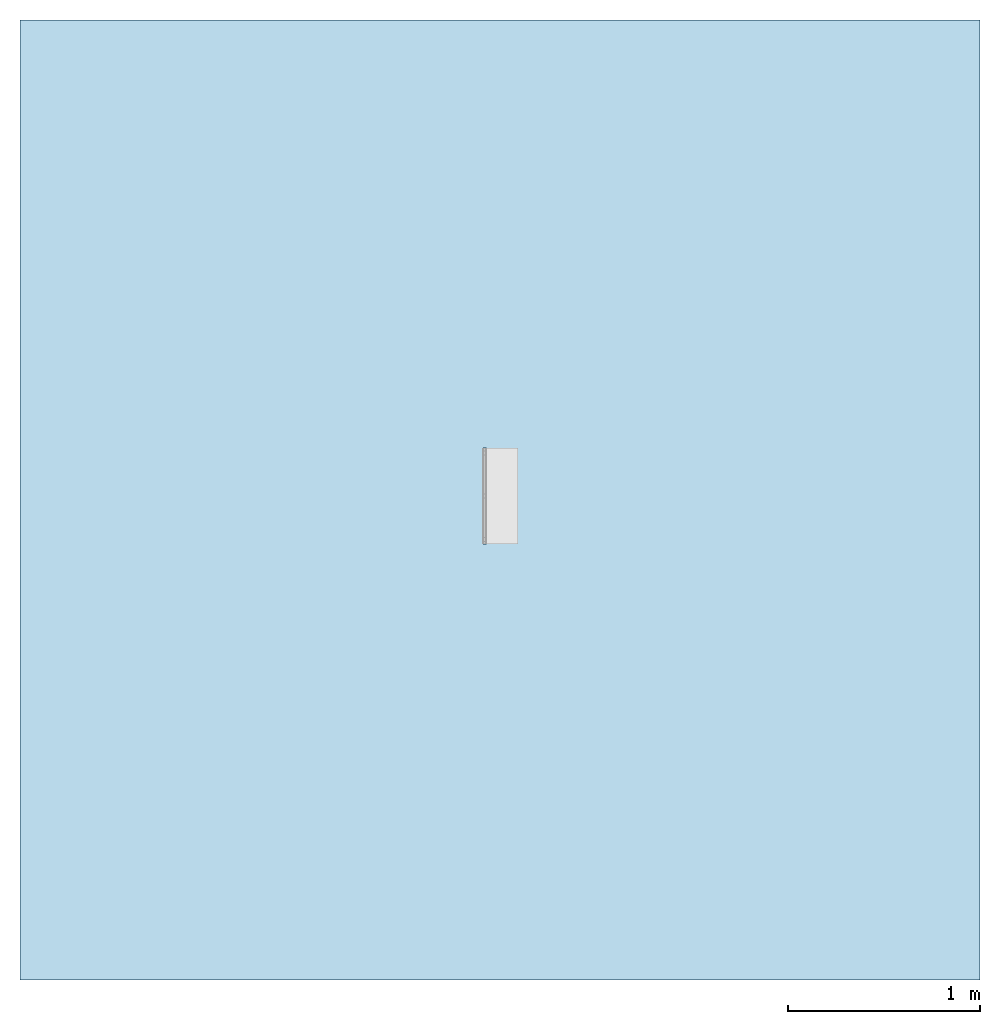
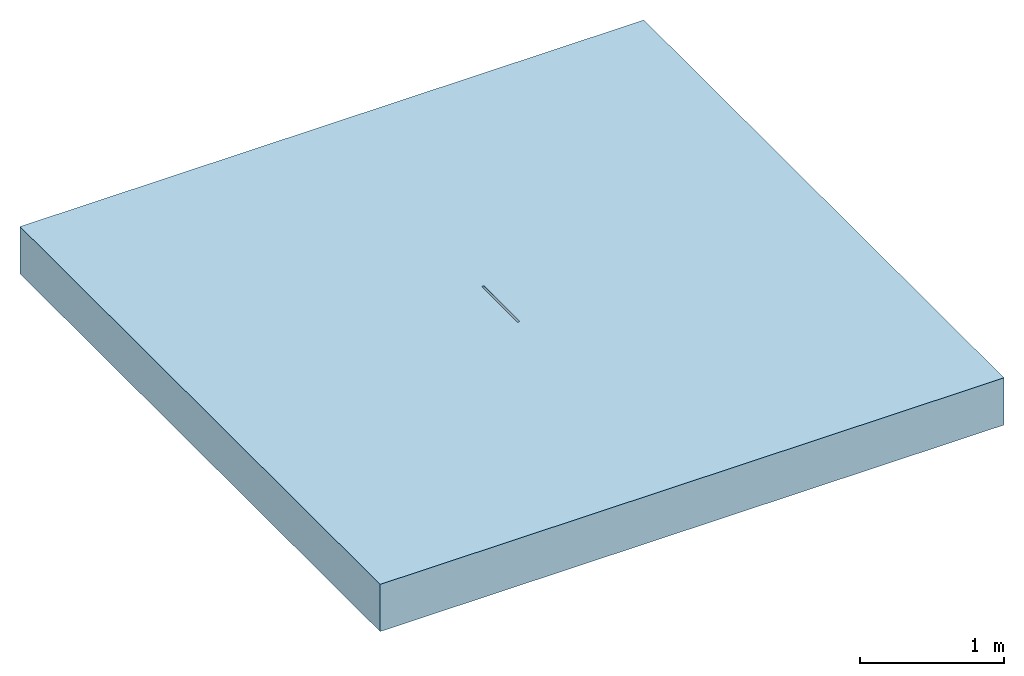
# One storey, part 1 of 2: 1 slab, 2 openings.
"""IFC2X3 building model written with IfcOpenShell, lengths in millimetres."""

from ifc_helpers import new_model, entity, si_unit, converted_unit, direction, frame, frame_2d, origin, place, context, subcontext, project, spatial, polyline, rectangle, outline, extrude, material, layer, layer_set, layer_usage, element, save


model = new_model("IFC2X3")

# Units and contexts
model_context = context("Model", 3, precision=1e-06, world=origin(), true_north=direction((2.0, 6.12303176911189e-17, 1.0)))
context_of_model = context(None, 3, precision=1e-06, world=origin(), true_north=direction((2.0, 6.12303176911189e-17, 1.0)))
body_context = subcontext(model_context, "Body", "Model", "MODEL_VIEW")
ifc_project = project(units=[si_unit("LENGTHUNIT", "METRE", prefix="MILLI"), si_unit("AREAUNIT", "SQUARE_METRE", prefix="MILLI"), si_unit("VOLUMEUNIT", "CUBIC_METRE", prefix="MILLI"), converted_unit("PLANEANGLEUNIT", "DEGREE", entity("IfcRatioMeasure", 0.0174532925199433), si_unit("PLANEANGLEUNIT", "RADIAN"), dimensions=[0, 0, 0, 0, 0, 0, 0]), si_unit("TIMEUNIT", "SECOND")], contexts=[model_context, context_of_model])

# Site, building, storey
site_placement = place(None, origin())
site = spatial("IfcSite", under=ifc_project, at=site_placement, Name="Default", CompositionType="ELEMENT")
building_placement = place(site_placement, origin())
building = spatial("IfcBuilding", under=site, at=building_placement, CompositionType="ELEMENT")
storey_placement = place(building_placement, origin())
storey = spatial("IfcBuildingStorey", under=building, at=storey_placement, Name="Level 1", CompositionType="ELEMENT", Elevation=0.0)

# Slab, openings
ifc_material = material(Name="Earth")
ifc_layer = layer(ifc_material, 400.0)
ifc_layer_set = layer_set([ifc_layer], Name="Floor:Generic Floor - 400mm")
ifc_layer_usage = layer_usage(ifc_layer_set, "AXIS3", "POSITIVE", 0.0)
slab_placement = place(storey_placement, origin())
slab = element("IfcSlab", 1, at=slab_placement, inside=storey, material=ifc_layer_usage, Name="Floor:Generic Floor - 400mm", ObjectType="Floor:Generic Floor - 400mm", PredefinedType="FLOOR", context=body_context, shape_type="SweptSolid", body=[
    extrude(rectangle(XDim=5000.0, YDim=5000.0, at=frame_2d((0.0, 0.0), x_axis=(0.0, -1.0))), frame((0.0, 0.0, 0.0), z_axis=(0.0, 0.0, -1.0), x_axis=(-1.0, 0.0, 0.0)), (0.0, 0.0, 1.0), 400.0),
])
opening_1_placement = place(slab_placement, origin())
element("IfcOpeningElement", 2, at=opening_1_placement, cuts=slab, ObjectType="Recess", context=body_context, shape_type="SweptSolid", body=[
    extrude(outline(polyline([(-88.2489787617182, -250.0), (88.2489787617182, -250.0), (88.2489787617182, 250.0), (-88.2489787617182, 250.0), (-88.2489787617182, -250.0)]), holes=[polyline([(-78.2489787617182, -244.0), (-78.2489787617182, 244.0), (70.2489787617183, 244.0), (70.2489787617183, -244.0), (-78.2489787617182, -244.0)])]), frame((0.00102123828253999, 20.0, -6105.0), z_axis=(0.0, 0.0, 1.0), x_axis=(-1.0, 0.0, 0.0)), (0.0, 0.0, 1.0), 105.0),
])
opening_2_placement = place(slab_placement, origin())
element("IfcOpeningElement", 3, at=opening_2_placement, cuts=slab, ObjectType="Recess", context=body_context, shape_type="SweptSolid", body=[
    extrude(outline(polyline([(-183.749999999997, -52.8760212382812), (26.2500000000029, -52.8760212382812), (26.2500000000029, -48.6239787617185), (131.249999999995, -48.6239787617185), (131.249999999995, -30.6239787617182), (26.2499999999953, -30.6239787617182), (26.2500000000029, 132.123978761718), (-183.749999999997, 132.123978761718), (-183.749999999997, -52.8760212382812)])), frame((-39.6239787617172, -230.0, -131.250000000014), z_axis=(0.0, 1.0, 0.0), x_axis=(0.0, 0.0, 1.0)), (0.0, 0.0, 1.0), 500.0),
])

save(model, "model.ifc")
